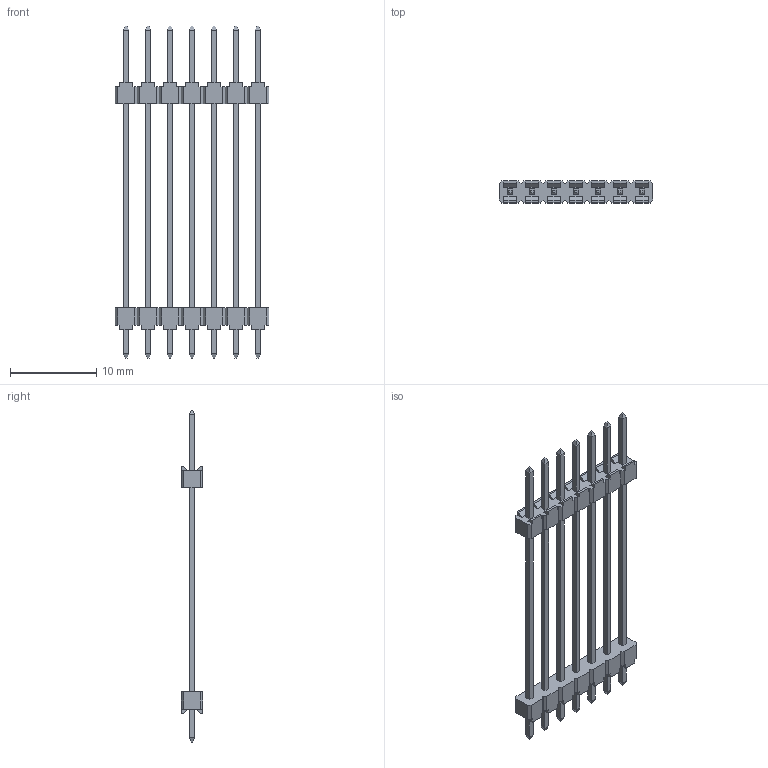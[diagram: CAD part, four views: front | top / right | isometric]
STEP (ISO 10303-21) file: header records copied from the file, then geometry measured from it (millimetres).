
FILE_DESCRIPTION(/* description */ (''),/* implementation_level */ '2;1');
FILE_NAME(/* name */ '961407-9041504-XX',/* time_stamp */ '2007-06-14T17:30:06+02:00',/* author */ (''),/* organization */ (''),/* preprocessor_version */ 'ST-DEVELOPER v9',/* originating_system */ 'UGS - NX 3.0',/* authorisation */ '');
FILE_SCHEMA (('AUTOMOTIVE_DESIGN { 1 0 10303 214 1 1 1 1 }'));
Length unit declared in the file: millimetre
Products named in the file (1): 961407-9041504-XX
Bounding box: 17.78 x 2.5 x 38.4 mm (x, y, z)
Volume: 278.7 mm3; surface area: 983.9 mm2
Topology: 1 solids, 1 shells, 390 faces, 1060 edges, 688 vertices
Faces by surface type: plane 390
Entity records: 12004 total; most frequent: CARTESIAN_POINT 2139, ORIENTED_EDGE 2120, DIRECTION 1842, EDGE_CURVE 1060, LINE 1060, VECTOR 1060, VERTEX_POINT 688, EDGE_LOOP 418
